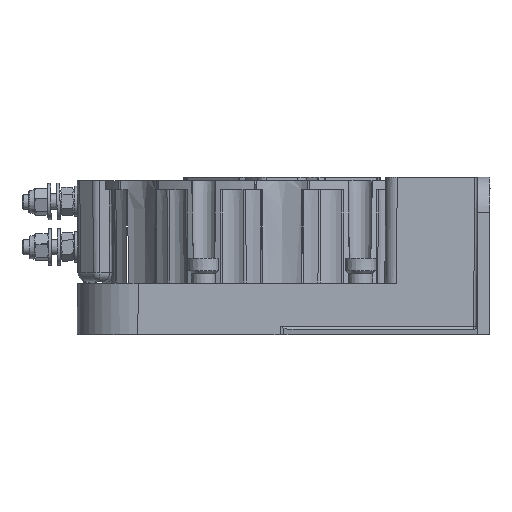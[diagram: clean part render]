
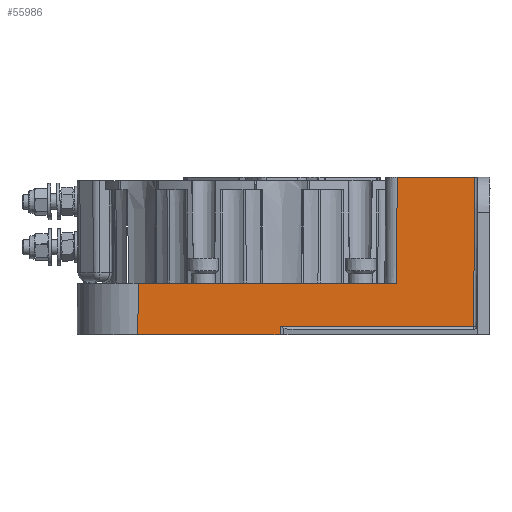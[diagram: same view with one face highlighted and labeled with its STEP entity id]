
A CAD part, left-side view. The second image highlights one B-rep face of the part: STEP entity #55986.
In plain terms, the highlighted planar face has unit normal (-1, 0, 0.009).
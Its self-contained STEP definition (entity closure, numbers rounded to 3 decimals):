
#2464=CARTESIAN_POINT('',(-67.352,47.352,6.998));
#2465=VERTEX_POINT('',#2464);
#2473=CARTESIAN_POINT('',(-67.352,-37.651,6.998));
#2474=VERTEX_POINT('',#2473);
#2475=CARTESIAN_POINT('',(-67.352,-37.651,6.998));
#2476=DIRECTION('',(0.0,1.0,0.0));
#2477=VECTOR('',#2476,85.004);
#2478=LINE('',#2475,#2477);
#2479=EDGE_CURVE('',#2474,#2465,#2478,.T.);
#6200=CARTESIAN_POINT('',(-67.5,0.666,-10.002));
#6201=VERTEX_POINT('',#6200);
#6209=CARTESIAN_POINT('',(-67.5,47.501,-10.002));
#6210=VERTEX_POINT('',#6209);
#6211=CARTESIAN_POINT('',(-67.5,0.666,-10.002));
#6212=DIRECTION('',(0.0,1.0,0.0));
#6213=VECTOR('',#6212,46.835);
#6214=LINE('',#6211,#6213);
#6215=EDGE_CURVE('',#6201,#6210,#6214,.T.);
#22985=CARTESIAN_POINT('',(-67.046,-37.957,41.998));
#22986=VERTEX_POINT('',#22985);
#22994=CARTESIAN_POINT('',(-67.046,-63.5,41.998));
#22995=VERTEX_POINT('',#22994);
#22996=CARTESIAN_POINT('',(-67.046,-37.957,41.998));
#22997=DIRECTION('',(0.0,-1.0,0.0));
#22998=VECTOR('',#22997,25.543);
#22999=LINE('',#22996,#22998);
#23000=EDGE_CURVE('',#22986,#22995,#22999,.T.);
#55924=CARTESIAN_POINT('',(-67.476,0.663,-7.21));
#55925=VERTEX_POINT('',#55924);
#55933=CARTESIAN_POINT('',(-67.476,0.663,-7.21));
#55934=DIRECTION('',(-0.009,0.001,-1.));
#55935=VECTOR('',#55934,2.791);
#55936=LINE('',#55933,#55935);
#55937=EDGE_CURVE('',#55925,#6201,#55936,.T.);
#55949=CARTESIAN_POINT('',(-67.5,-67.5,-10.002));
#55950=DIRECTION('',(-1.,0.0,0.009));
#55951=DIRECTION('',(0.0,-1.0,0.0));
#55952=AXIS2_PLACEMENT_3D('',#55949,#55950,#55951);
#55953=PLANE('',#55952);
#55954=ORIENTED_EDGE('',*,*,#55937,.F.);
#55955=CARTESIAN_POINT('',(-67.476,-63.071,-7.21));
#55956=VERTEX_POINT('',#55955);
#55957=CARTESIAN_POINT('',(-67.476,-63.071,-7.21));
#55958=DIRECTION('',(0.0,1.0,0.0));
#55959=VECTOR('',#55958,63.734);
#55960=LINE('',#55957,#55959);
#55961=EDGE_CURVE('',#55956,#55925,#55960,.T.);
#55962=ORIENTED_EDGE('',*,*,#55961,.F.);
#55963=CARTESIAN_POINT('',(-67.046,-63.5,41.998));
#55964=DIRECTION('',(-0.009,0.009,-1.));
#55965=VECTOR('',#55964,49.212);
#55966=LINE('',#55963,#55965);
#55967=EDGE_CURVE('',#22995,#55956,#55966,.T.);
#55968=ORIENTED_EDGE('',*,*,#55967,.F.);
#55969=ORIENTED_EDGE('',*,*,#23000,.F.);
#55970=CARTESIAN_POINT('',(-67.352,-37.651,6.998));
#55971=DIRECTION('',(0.009,-0.009,1.));
#55972=VECTOR('',#55971,35.003);
#55973=LINE('',#55970,#55972);
#55974=EDGE_CURVE('',#2474,#22986,#55973,.T.);
#55975=ORIENTED_EDGE('',*,*,#55974,.F.);
#55976=ORIENTED_EDGE('',*,*,#2479,.T.);
#55977=CARTESIAN_POINT('',(-67.5,47.501,-10.002));
#55978=DIRECTION('',(0.009,-0.009,1.));
#55979=VECTOR('',#55978,17.001);
#55980=LINE('',#55977,#55979);
#55981=EDGE_CURVE('',#6210,#2465,#55980,.T.);
#55982=ORIENTED_EDGE('',*,*,#55981,.F.);
#55983=ORIENTED_EDGE('',*,*,#6215,.F.);
#55984=EDGE_LOOP('',(#55954,#55962,#55968,#55969,#55975,#55976,#55982,#55983));
#55985=FACE_OUTER_BOUND('',#55984,.T.);
#55986=ADVANCED_FACE('',(#55985),#55953,.T.);
